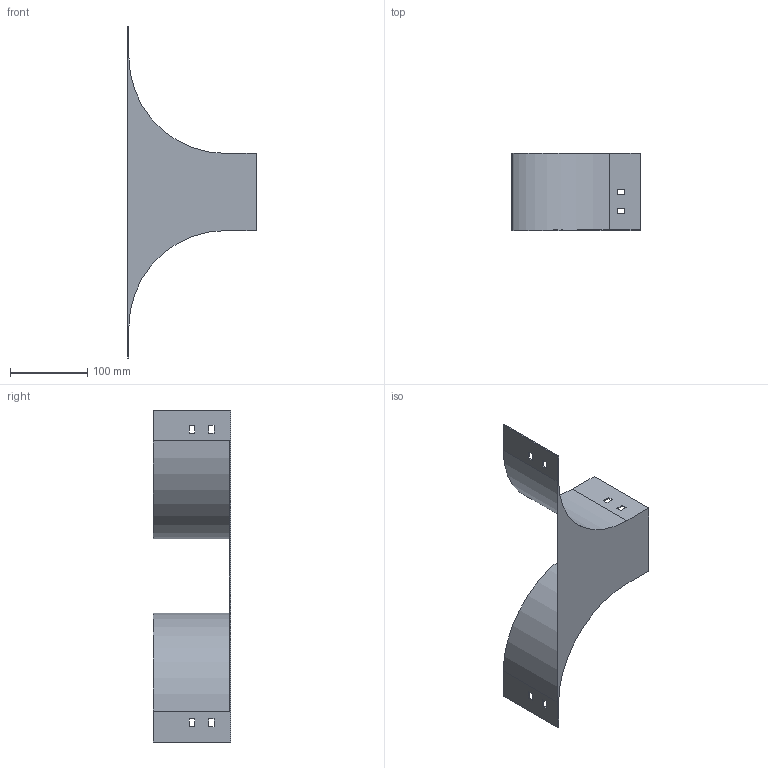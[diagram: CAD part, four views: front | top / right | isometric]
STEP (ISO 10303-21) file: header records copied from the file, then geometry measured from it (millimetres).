
FILE_DESCRIPTION (( 'STEP AP214' ), '1' );
FILE_NAME ('RL_101.step', '2025-07-16T09:24:40', ( '' ), ( '' ), 'SwSTEP 2.0', 'SolidWorks 2023', '' );
FILE_SCHEMA (( 'AUTOMOTIVE_DESIGN' ));
Length unit declared in the file: millimetre
Products named in the file (1): RL_101
Bounding box: 166.5 x 100 x 430 mm (x, y, z)
Volume: 116946.4 mm3; surface area: 158556.1 mm2
Topology: 1 solids, 1 shells, 50 faces, 144 edges, 96 vertices
Faces by surface type: plane 46, cylinder 4
Entity records: 1671 total; most frequent: CARTESIAN_POINT 291, ORIENTED_EDGE 288, DIRECTION 254, EDGE_CURVE 144, LINE 136, VECTOR 136, VERTEX_POINT 96, EDGE_LOOP 66
